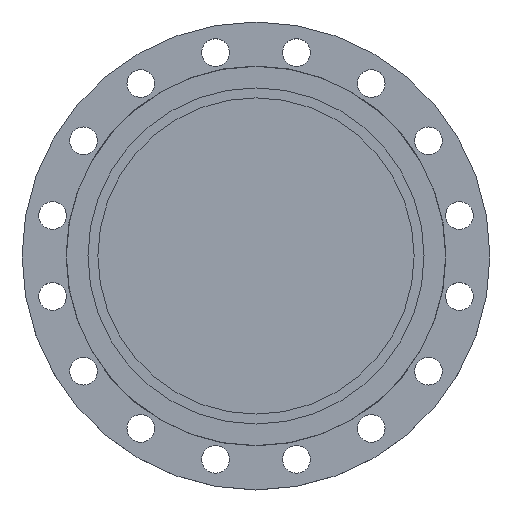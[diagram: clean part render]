
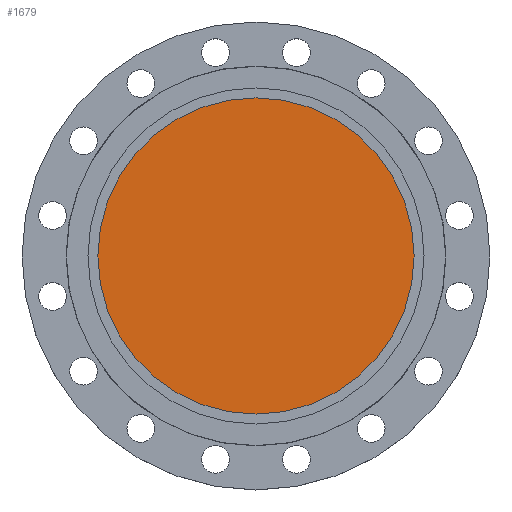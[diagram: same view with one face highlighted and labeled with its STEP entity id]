
A CAD part, top view. The second image highlights one B-rep face of the part: STEP entity #1679.
In plain terms, the highlighted planar face has unit normal (0, 0, 1).
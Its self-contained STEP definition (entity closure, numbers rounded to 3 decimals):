
#71 = EDGE_CURVE ( 'NONE', #1316, #1252, #1672, .T. ) ;
#94 = CARTESIAN_POINT ( 'NONE',  ( 223., 0., 0. ) ) ;
#183 = CARTESIAN_POINT ( 'NONE',  ( -223., 0., 0. ) ) ;
#239 = DIRECTION ( 'NONE',  ( -1., 0., 0. ) ) ;
#240 = DIRECTION ( 'NONE',  ( 0., 0., -1. ) ) ;
#241 = CARTESIAN_POINT ( 'NONE',  ( 0., 0., 0. ) ) ;
#443 = AXIS2_PLACEMENT_3D ( 'NONE', #904, #903, #902 ) ;
#902 = DIRECTION ( 'NONE',  ( -1., 0., 0. ) ) ;
#903 = DIRECTION ( 'NONE',  ( 0., 0., -1. ) ) ;
#904 = CARTESIAN_POINT ( 'NONE',  ( 0., 0., 0. ) ) ;
#990 = EDGE_LOOP ( 'NONE', ( #1551, #1552 ) ) ;
#1173 = AXIS2_PLACEMENT_3D ( 'NONE', #1430, #1428, #1426 ) ;
#1174 = CIRCLE ( 'NONE', #1185, 223. ) ;
#1185 = AXIS2_PLACEMENT_3D ( 'NONE', #241, #240, #239 ) ;
#1199 = EDGE_CURVE ( 'NONE', #1252, #1316, #1174, .T. ) ;
#1252 = VERTEX_POINT ( 'NONE', #183 ) ;
#1316 = VERTEX_POINT ( 'NONE', #94 ) ;
#1426 = DIRECTION ( 'NONE',  ( 1., 0., 0. ) ) ;
#1428 = DIRECTION ( 'NONE',  ( 0., 0., 1. ) ) ;
#1430 = CARTESIAN_POINT ( 'NONE',  ( 0., 0., 0. ) ) ;
#1443 = PLANE ( 'NONE',  #1173 ) ;
#1457 = FACE_OUTER_BOUND ( 'NONE', #990, .T. ) ;
#1551 = ORIENTED_EDGE ( 'NONE', *, *, #1199, .F. ) ;
#1552 = ORIENTED_EDGE ( 'NONE', *, *, #71, .F. ) ;
#1672 = CIRCLE ( 'NONE', #443, 223. ) ;
#1679 = ADVANCED_FACE ( 'NONE', ( #1457 ), #1443, .T. ) ;
